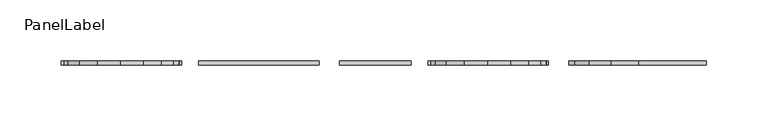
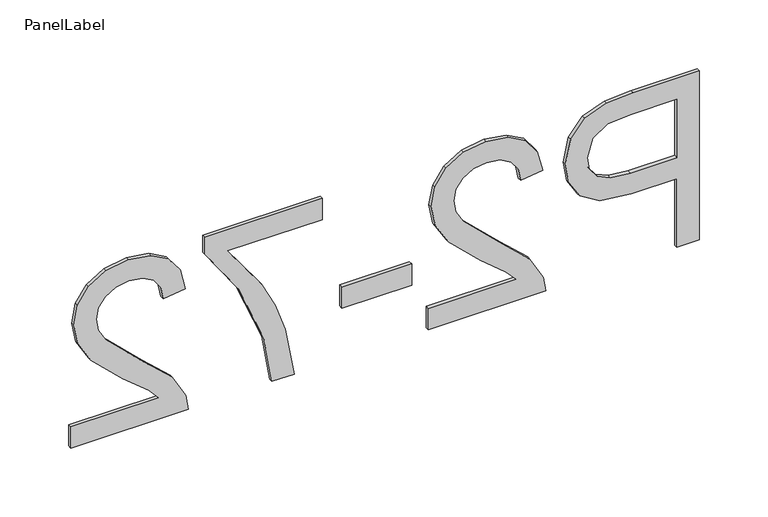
"""IFC4 building model written with IfcOpenShell, lengths in millimetres: fastener geometry, PanelLabel : Miranda."""

from ifc_helpers import new_model, si_unit, frame, origin, place, context, project, spatial, polyline, outline, extrude, source, transform, mapped, element, save


def panellabel_db9f150f(model_context):
    return source(origin(), model_context, "Body", "SweptSolid", [
        extrude(outline(polyline([(1310.9113766, 260.2523077), (1460.9667612, 260.2523077), (1460.9667612, 204.6409615), (1459.5380112, 182.2205769), (1452.5224823, 163.9948558), (1438.0151747, 152.1801923), (1417.554742, 147.7107692), (1399.8693814, 150.7285457), (1385.1331073, 159.781875), (1375.1868093, 176.7116466), (1371.8713766, 203.35875), (1371.8713766, 241.4953846), (1310.9113766, 241.4953846), (1310.9113766, 260.2523077)]), holes=[polyline([(1390.6282997, 241.4953846), (1390.6282997, 202.2597115), (1392.3501266, 185.6275962), (1397.5156073, 174.6372115), (1405.8041891, 168.5100721), (1416.8953189, 166.4676923), (1432.4283958, 171.2851442), (1440.9276266, 183.9424038), (1442.2098381, 202.6993269), (1442.2098381, 241.4953846), (1390.6282997, 241.4953846)])]), frame((0.0, 52.3875, 0.0), z_axis=(0.0, 1.0, 0.0), x_axis=(0.0, 0.0, 1.0)), (0.0, 0.0, 1.0), 3.175),
        extrude(outline(polyline([(1329.6682997, 32.8246154), (1310.9113766, 32.8246154), (1310.9113766, 131.2984615), (1323.8433958, 129.2835577), (1343.7543093, 117.8901923), (1365.4969535, 94.4074038), (1396.7462804, 62.0224038), (1407.5168573, 55.9502163), (1417.9943573, 53.9261538), (1427.3865569, 55.8357332), (1435.1943093, 61.5644712), (1440.4559559, 70.3705168), (1442.2098381, 81.5120192), (1440.4971698, 93.2121995), (1435.359165, 102.3021635), (1427.1988045, 108.1682813), (1416.4190689, 110.1969231), (1418.7636843, 128.9538462), (1436.9069775, 124.4065745), (1450.1595497, 114.5747596), (1458.2649583, 99.9712861), (1460.9667612, 81.1090385), (1457.9627227, 62.1094111), (1448.9506073, 47.5334135), (1435.4873862, 38.2602764), (1419.1300304, 35.1692308), (1401.3439247, 38.5029808), (1382.9533477, 49.5849519), (1357.254165, 76.4564423), (1339.211617, 98.0342308), (1329.6682997, 106.4968269), (1329.6682997, 32.8246154)])), frame((0.0, 52.3875, 0.0), z_axis=(0.0, 1.0, 0.0), x_axis=(0.0, 0.0, 1.0)), (0.0, 0.0, 1.0), 3.175),
        extrude(outline(polyline([(-39.8584615, 55.5625), (18.7569231, 55.5625), (18.7569231, 52.3875), (-39.8584615, 52.3875), (-39.8584615, 55.5625)])), frame((0.0, 0.0, 1355.4590689), z_axis=(0.0, 0.0, 1.0), x_axis=(1.0, 0.0, 0.0)), (0.0, 0.0, 1.0), 18.7569231),
        extrude(outline(polyline([(1439.8652227, -56.2707692), (1458.6221458, -56.2707692), (1458.6221458, -154.7446154), (1443.455415, -154.7446154), (1403.1023862, -126.8107212), (1351.6857035, -105.4344231), (1310.9113766, -98.4738462), (1310.9113766, -79.7169231), (1353.2243573, -87.1720673), (1377.5817972, -95.8498918), (1401.0508477, -107.6325), (1439.8652227, -135.9876923), (1439.8652227, -56.2707692)])), frame((0.0, 52.3875, 0.0), z_axis=(0.0, 1.0, 0.0), x_axis=(0.0, 0.0, 1.0)), (0.0, 0.0, 1.0), 3.175),
        extrude(outline(polyline([(1329.6682997, -267.2861538), (1310.9113766, -267.2861538), (1310.9113766, -168.8123077), (1323.8433958, -170.8272115), (1343.7543093, -182.2205769), (1365.4969535, -205.7033654), (1396.7462804, -238.0883654), (1407.5168573, -244.1605529), (1417.9943573, -246.1846154), (1427.3865569, -244.2750361), (1435.1943093, -238.5462981), (1440.4559559, -229.7402524), (1442.2098381, -218.59875), (1440.4971698, -206.8985697), (1435.359165, -197.8086058), (1427.1988045, -191.942488), (1416.4190689, -189.9138462), (1418.7636843, -171.1569231), (1436.9069775, -175.7041947), (1450.1595497, -185.5360096), (1458.2649583, -200.1394832), (1460.9667612, -219.0017308), (1457.9627227, -238.0013582), (1448.9506073, -252.5773558), (1435.4873862, -261.8504928), (1419.1300304, -264.9415385), (1401.3439247, -261.6077885), (1382.9533477, -250.5258173), (1357.254165, -223.6543269), (1339.211617, -202.0765385), (1329.6682997, -193.6139423), (1329.6682997, -267.2861538)])), frame((0.0, 52.3875, 0.0), z_axis=(0.0, 1.0, 0.0), x_axis=(0.0, 0.0, 1.0)), (0.0, 0.0, 1.0), 3.175),
    ])


if __name__ == "__main__":
    model = new_model("IFC4")
    model_context = context("Model", 3, world=origin())
    ifc_project = project(units=[si_unit("LENGTHUNIT", "METRE", prefix="MILLI")], contexts=[model_context])
    site = spatial("IfcSite", under=ifc_project)
    building = spatial("IfcBuilding", under=site)
    placement = place(None, origin())
    panellabel_shape = panellabel_db9f150f(model_context)
    element("IfcFastener", 1, ObjectType="PanelLabel : Miranda", at=placement, inside=building, context=model_context, shape_type="MappedRepresentation", body=[
        mapped(panellabel_shape, transform((0.0, 0.0, 0.0), x_axis=(1.0, 0.0, 0.0), y_axis=(0.0, 1.0, 0.0), z_axis=(0.0, 0.0, 1.0))),
    ])
    save(model, "model.ifc")
